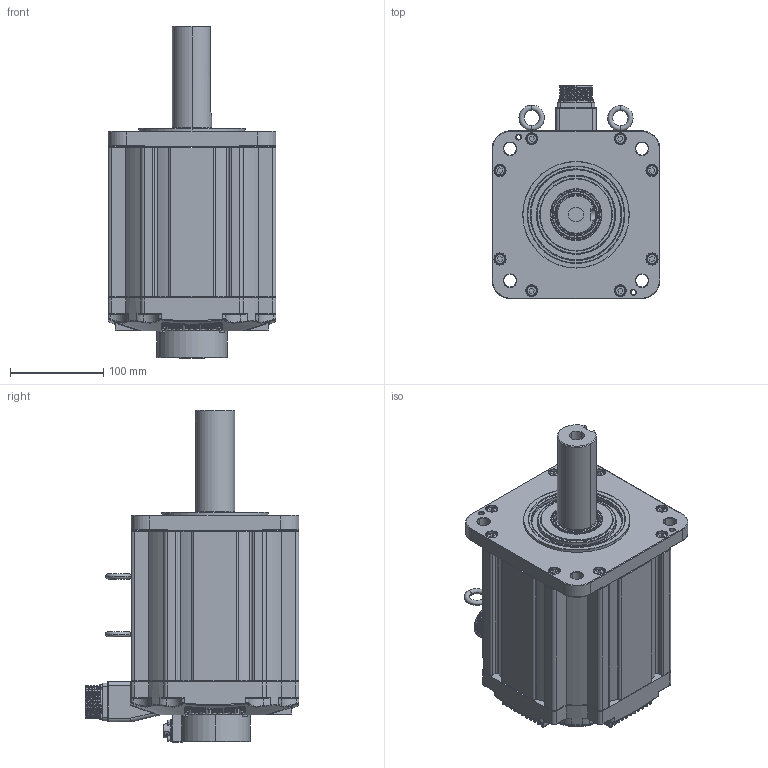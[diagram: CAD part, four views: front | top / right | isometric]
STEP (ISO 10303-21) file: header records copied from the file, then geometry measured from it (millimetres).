
FILE_DESCRIPTION (( 'STEP AP203' ), '1' );
FILE_NAME ('ACM180855M3X-70-L-祥惕掅.STEP', '2024-08-08T05:38:20', ( 'Microsoft' ), ( 'SysCeo.com' ), 'SwSTEP 2.0', 'SolidWorks 2022', '' );
FILE_SCHEMA (( 'CONFIG_CONTROL_DESIGN' ));
Products named in the file (1): ACM180855M3X-70-L-不抱闸
Bounding box: 180 x 229.4 x 356 mm (x, y, z)
Surface area: 287099.8 mm2 (no closed solid volume)
Topology: 0 solids, 64 shells, 1601 faces, 4515 edges, 2715 vertices
Faces by surface type: bspline 590, cylinder 504, plane 416, cone 83, torus 8
Entity records: 75627 total; most frequent: CARTESIAN_POINT 39463, ORIENTED_EDGE 7631, DIRECTION 6863, EDGE_CURVE 4321, VERTEX_POINT 2715, AXIS2_PLACEMENT_3D 2582, EDGE_LOOP 1713, LINE 1699
